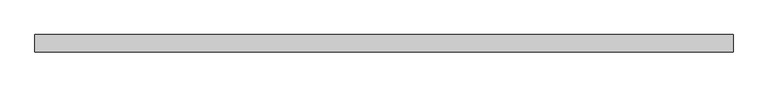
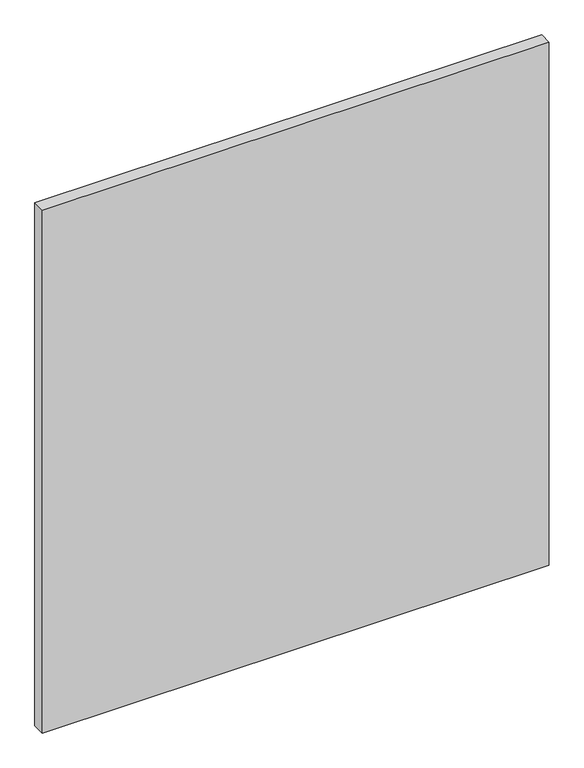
"""IFC4 building model written with IfcOpenShell, lengths in millimetres: plate geometry, 系統嵌板 : 有玻璃的."""

from ifc_helpers import new_model, si_unit, origin, origin_with_axes, place, context, project, spatial, polyline, outline, extrude, source, transform, mapped, element, save


def plate_e926f8a0(model_context):
    return source(origin(), model_context, "Body", "SweptSolid", [
        extrude(outline(polyline([(503.3333333, 24.5), (-503.3333333, 24.5), (-503.3333333, 49.5), (503.3333333, 49.5), (503.3333333, 24.5)])), origin_with_axes(), (0.0, 0.0, 1.0), 1097.6738463),
    ])


if __name__ == "__main__":
    model = new_model("IFC4")
    model_context = context("Model", 3, world=origin())
    ifc_project = project(units=[si_unit("LENGTHUNIT", "METRE", prefix="MILLI")], contexts=[model_context])
    site = spatial("IfcSite", under=ifc_project)
    building = spatial("IfcBuilding", under=site)
    placement = place(None, origin())
    plate_shape = plate_e926f8a0(model_context)
    element("IfcPlate", 1, ObjectType="系統嵌板 : 有玻璃的", at=placement, inside=building, context=model_context, shape_type="MappedRepresentation", body=[
        mapped(plate_shape, transform((0.0, 0.0, 0.0), x_axis=(1.0, 0.0, 0.0), y_axis=(0.0, 1.0, 0.0), z_axis=(0.0, 0.0, 1.0))),
    ])
    save(model, "model.ifc")
